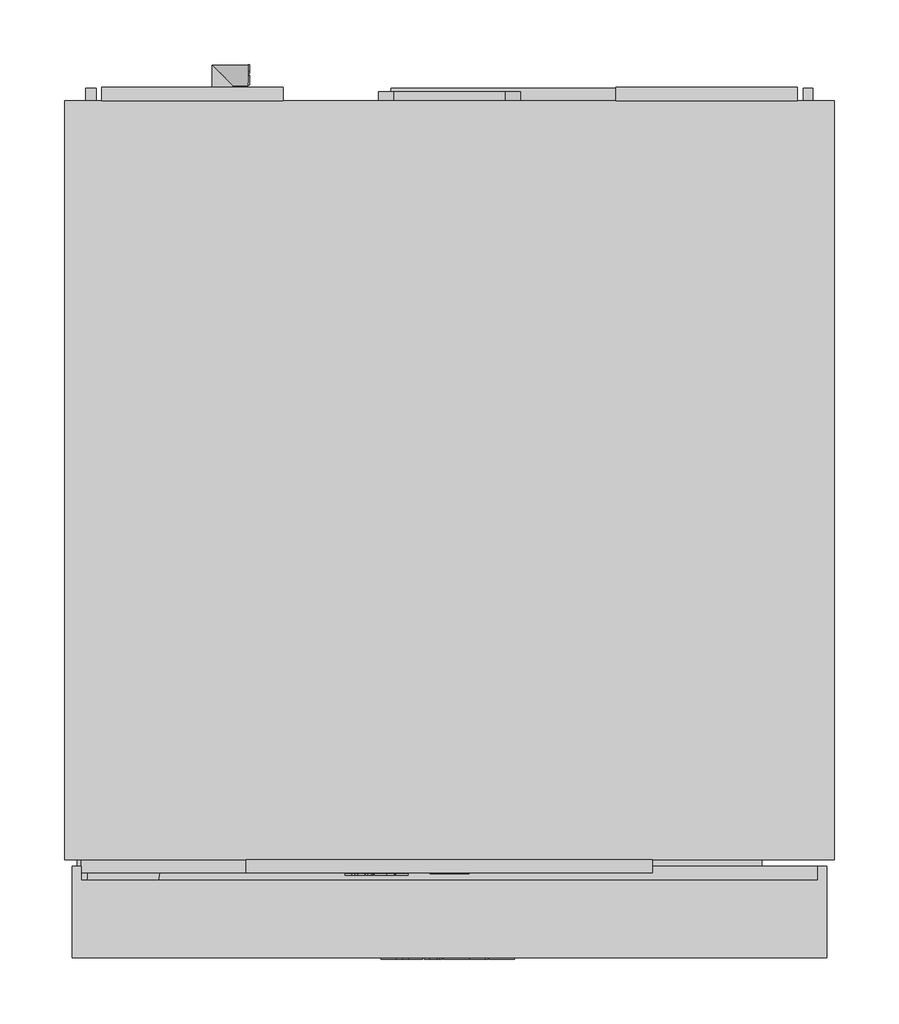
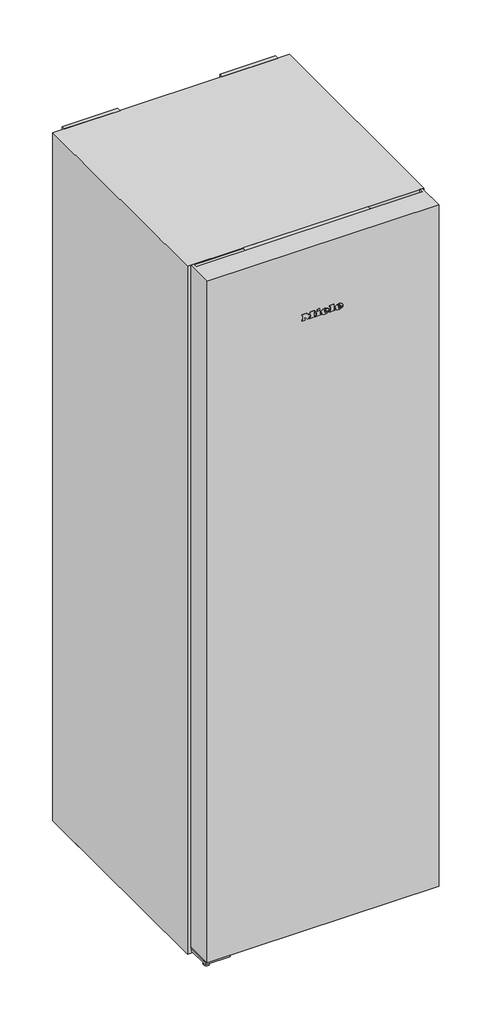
# Not in any storey: 1 proxy.
"""IFC4 building model written with IfcOpenShell, lengths in millimetres."""

from ifc_helpers import new_model, si_unit, origin, place, context, project, spatial, transform, mapped, element, save
from components import specialty_equipment_e65e2c74

model = new_model("IFC4")

# Units and contexts
model_context = context("Model", 3, world=origin())
ifc_project = project(units=[si_unit("LENGTHUNIT", "METRE", prefix="MILLI")], contexts=[model_context])

# Site, building
site = spatial("IfcSite", under=ifc_project)
building = spatial("IfcBuilding", under=site)

# Proxy
placement = place(None, origin())
specialty_equipment_shape = specialty_equipment_e65e2c74(model_context)
element("IfcBuildingElementProxy", 1, Name="12430440_GB_FNS4382D_WS : 37438244_GB_12430440_FNS4382D_WS", ObjectType="12430440_GB_FNS4382D_WS : 37438244_GB_12430440_FNS4382D_WS", at=placement, inside=building, context=model_context, shape_type="MappedRepresentation", body=[
    mapped(specialty_equipment_shape, transform((0.0, 0.0, 0.0), x_axis=(1.0, 0.0, 0.0), y_axis=(0.0, 1.0, 0.0), z_axis=(0.0, 0.0, 1.0))),
])

save(model, "model.ifc")
